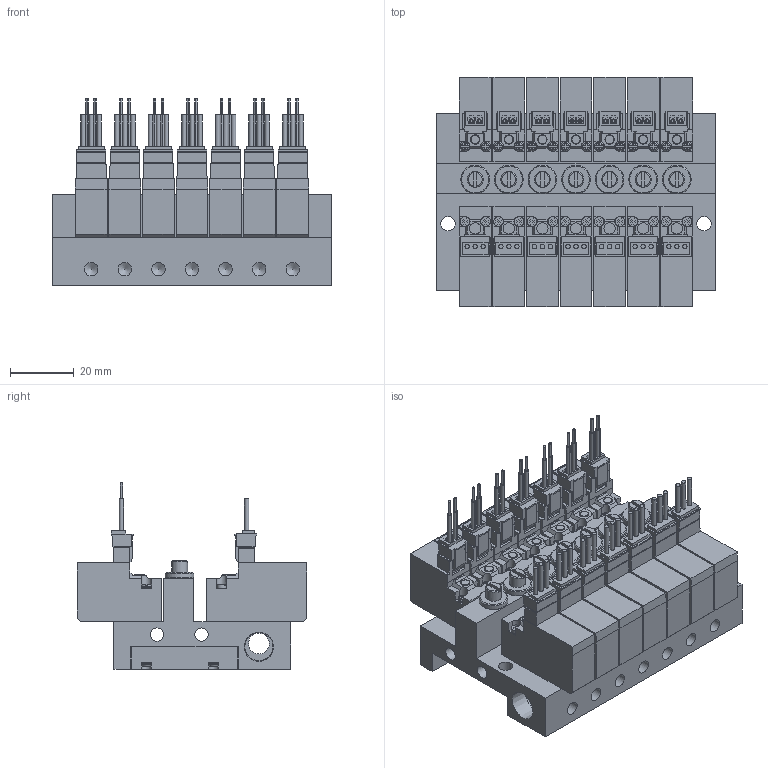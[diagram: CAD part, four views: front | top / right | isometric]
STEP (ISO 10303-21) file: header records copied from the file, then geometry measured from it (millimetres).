
FILE_DESCRIPTION(('STEP AP203'),'1');
FILE_NAME('1-L-4EZ-M07.stp','2025-05-09T01:27:45',(' '),(' '),'Spatial InterOp 3D',' ',' ');
FILE_SCHEMA(('CONFIG_CONTROL_DESIGN'));
Length unit declared in the file: millimetre
Products named in the file (79): PV1※1-L-4EZ-M07; BODY; PLATE; NEEDLE; BOLT; SOLENOID VALVE VOLTAGE PV; 42; 45; 48; 51; SOLENOID VALVE PV101-W
Assembly tree (78 placements, depth 3):
  PV1※1-L-4EZ-M07
    BODY
    PLATE
    PLATE
    NEEDLE
    BOLT
    BOLT
    BOLT
    BOLT
    BOLT
    BOLT
    SOLENOID VALVE VOLTAGE PV
      42
      45
      48
      51
    NEEDLE
    SOLENOID VALVE VOLTAGE PV
      42
      45
      48
      51
    NEEDLE
    SOLENOID VALVE VOLTAGE PV
      42
      45
      48
      51
    PLATE
    BOLT
    BOLT
    BOLT
    PLATE
    BOLT
    BOLT
    BOLT
    NEEDLE
    SOLENOID VALVE VOLTAGE PV
      42
      45
      48
      51
    NEEDLE
    SOLENOID VALVE VOLTAGE PV
      42
      45
      48
      51
    PLATE
    BOLT
    BOLT
    BOLT
    SOLENOID VALVE VOLTAGE PV
      42
      45
      48
      51
    NEEDLE
    PLATE
    BOLT
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Bounding box: 87 x 71.8 x 58.25 mm (x, y, z)
Volume: 145151.5 mm3; surface area: 74212.6 mm2
Topology: 71 solids, 71 shells, 2727 faces, 7615 edges, 5193 vertices
Faces by surface type: plane 2025, cylinder 476, torus 112, bspline 70, cone 44
Full cylindrical faces by diameter (mm): 1.4 x21, 2 x21, 3 x35, 3.5 x7, 4.2 x16, 4.5 x2, 5 x7, 6.5 x1, 8.797 x2, 9 x7
Entity records: 91271 total; most frequent: CARTESIAN_POINT 16611, DIRECTION 14787, ORIENTED_EDGE 14608, EDGE_CURVE 7304, VERTEX_POINT 5080, LINE 4971, VECTOR 4971, AXIS2_PLACEMENT_3D 4908
